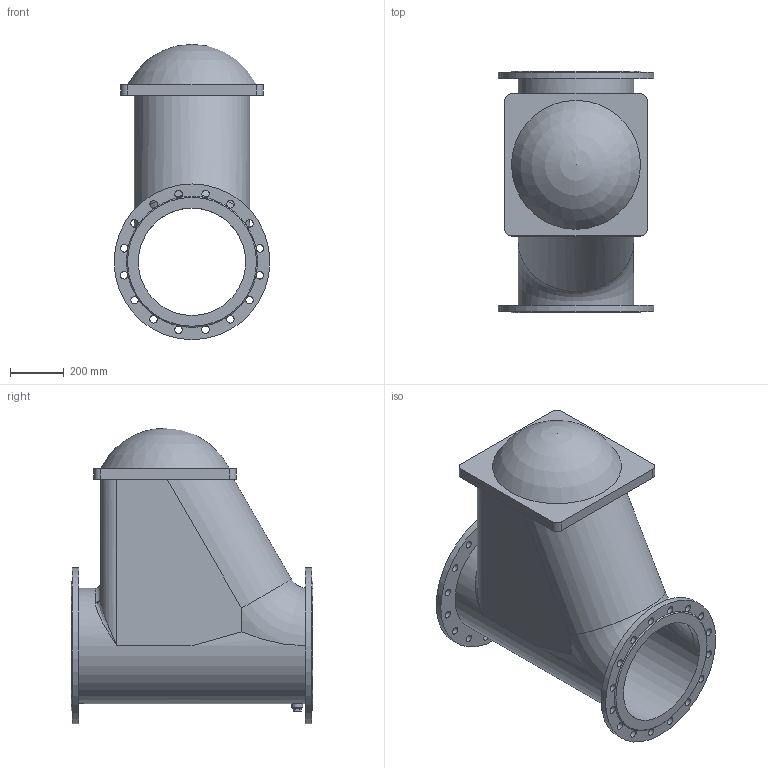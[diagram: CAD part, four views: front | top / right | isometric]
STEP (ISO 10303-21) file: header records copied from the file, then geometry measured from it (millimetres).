
FILE_DESCRIPTION(('STEP AP203'), '1');
FILE_NAME('Êëàïàí îáðàòíûé øàðîâîé ôëàíöåâûé 012F.Z DN400 PN10', '', ('UNSPECIFIED'), ('UNSPECIFIED'), 'ASCON STEP Converter 1.6', 'ASCON Math Kernel', '');
FILE_SCHEMA(('CONFIG_CONTROL_DESIGN'));
Length unit declared in the file: millimetre
Bounding box: 580 x 900 x 1100 mm (x, y, z)
Volume: 126377950.4 mm3; surface area: 4589378.9 mm2
Topology: 1 solids, 1 shells, 104 faces, 338 edges, 210 vertices
Faces by surface type: plane 49, cylinder 47, torus 3, bspline 2, cone 2, sphere 1
Full cylindrical faces by diameter (mm): 28 x32, 32 x1, 40 x1, 400 x1, 430 x1, 580 x2
Entity records: 5752 total; most frequent: CARTESIAN_POINT 1916, DIRECTION 653, ORIENTED_EDGE 586, AXIS2_PLACEMENT_3D 298, EDGE_CURVE 293, VERTEX_POINT 209, CIRCLE 195, EDGE_LOOP 188
